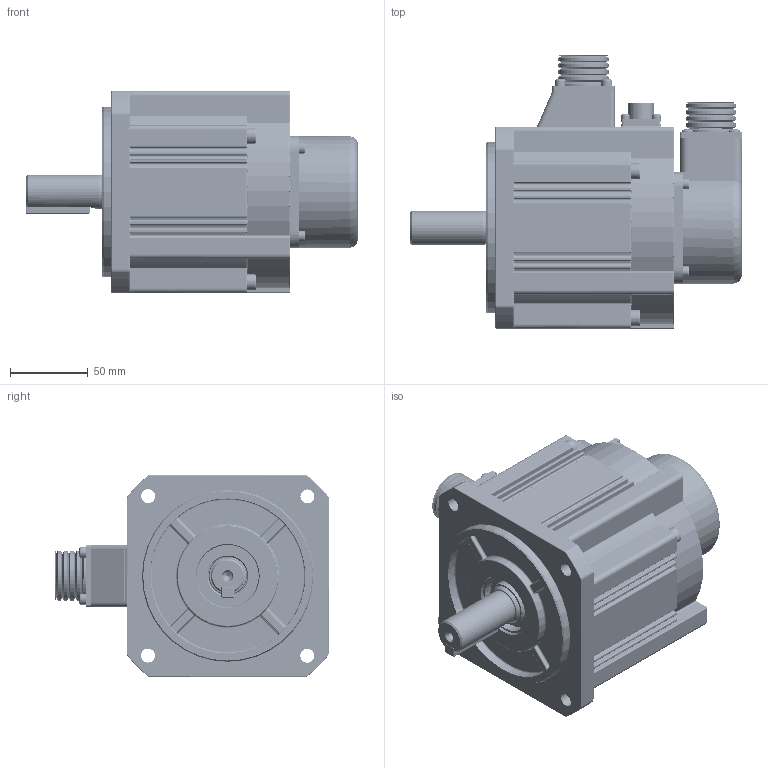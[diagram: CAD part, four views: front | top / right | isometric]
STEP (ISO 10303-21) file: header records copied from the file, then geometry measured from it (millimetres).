
FILE_DESCRIPTION((''),'2;1');
FILE_NAME('11101-01253_ASM','2024-01-23T18:49:50',('admin'),(''),'CREO PARAMETRIC BY PTC INC, 2019080','CREO PARAMETRIC BY PTC INC, 2019080','');
FILE_SCHEMA(('CONFIG_CONTROL_DESIGN'));
Products named in the file (105): 80040391_AF0; 66670022_AF0; 77840013_AF0; 77840004_AF0; 10CDZZJ_AF0_ASM; 66670022_AF1; 77840013_AF1; 77840004_AF1; 10CDZZJ_AF1_ASM; 66670022_AF2; 77840013_AF2; 77840004_AF2; 10CDZZJ_AF2_ASM; 66670022_AF3; 77840013_AF3; 77840004_AF3; 10CDZZJ_AF3_ASM; 66670022_AF4; 77840013_AF4; 77840004_AF4; 10CDZZJ_AF4_ASM; 66670022_AF5; 77840013_AF5; 77840004_AF5; 10CDZZJ_AF5_ASM; 66670022_AF6; 77840013_AF6; 77840004_AF6; 10CDZZJ_AF6_ASM; 66670022_AF7; 77840013_AF7; 77840004_AF7; 10CDZZJ_AF7_ASM; 66670022_AF8; 77840013_AF8; 77840004_AF8; 10CDZZJ_AF8_ASM; 66670022_AF9; 77840013_AF9; 77840004_AF9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
Assembly tree (110 placements, depth 6):
  11101-01253_ASM
    12112-01002_AF0_ASM
      80040391_AF0
      10CDZZJ_AF0_ASM
        66670022_AF0
        77840013_AF0
        77840004_AF0
      10CDZZJ_AF1_ASM
        66670022_AF1
        77840013_AF1
        77840004_AF1
      10CDZZJ_AF2_ASM
        66670022_AF2
        77840013_AF2
        77840004_AF2
      10CDZZJ_AF3_ASM
        66670022_AF3
        77840013_AF3
        77840004_AF3
      10CDZZJ_AF4_ASM
        66670022_AF4
        77840013_AF4
        77840004_AF4
      10CDZZJ_AF5_ASM
        66670022_AF5
        77840013_AF5
        77840004_AF5
      10CDZZJ_AF6_ASM
        66670022_AF6
        77840013_AF6
        77840004_AF6
      10CDZZJ_AF7_ASM
        66670022_AF7
        77840013_AF7
        77840004_AF7
      10CDZZJ_AF8_ASM
        66670022_AF8
        77840013_AF8
        77840004_AF8
      10CDZZJ_AF9_ASM
        66670022_AF9
        77840013_AF9
        77840004_AF9
      10CDZZJ_AF10_ASM
        66670022_AF10
        77840013_AF10
        77840004_AF10
      10CDZZJ_AF11_ASM
        66670022_AF11
        77840013_AF11
        77840004_AF11
      PCB_AF0
    12111-00747_AF0_ASM
      80100287_AF0
      6004-ZZ_AF0
      Z042-S130B-24V-18G25_AF0_ASM
        Z042-S130B-24V-18G0001_AF0_ASM
          Z032-S130B-20-1_AF0
          CROSS-RECESSED-COUNTERSUNK-HEAD_AF0
          DWT-5-3X8-5X10-75-1_AF0
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Bounding box: 213.7 x 176.08 x 130.11 mm (x, y, z)
Volume: 505607.3 mm3; surface area: 271476.1 mm2
Topology: 31 solids, 57 shells, 4183 faces, 10992 edges, 7007 vertices
Faces by surface type: cylinder 1717, plane 1644, torus 307, bspline 288, cone 141, sphere 86
Entity records: 160410 total; most frequent: CARTESIAN_POINT 68418, ORIENTED_EDGE 19090, DIRECTION 18491, EDGE_CURVE 9597, AXIS2_PLACEMENT_3D 6415, VERTEX_POINT 6137, VECTOR 5661, LINE 5661
